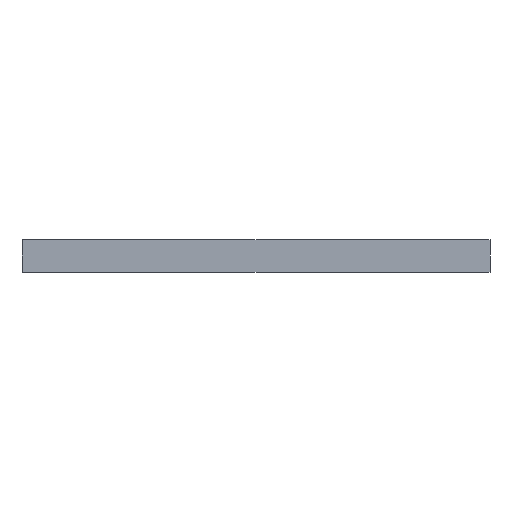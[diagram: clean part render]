
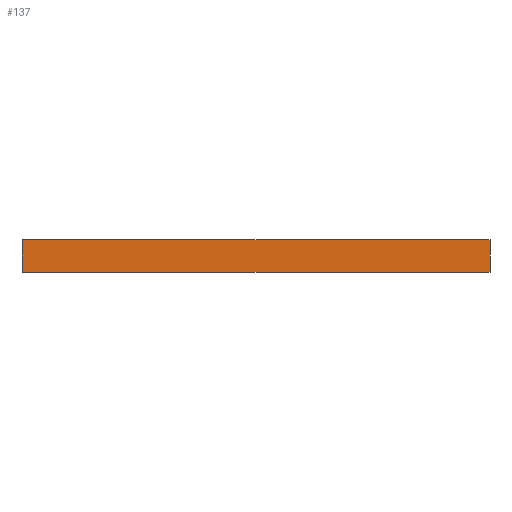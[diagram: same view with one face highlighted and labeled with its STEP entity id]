
A CAD part, front view. The second image highlights one B-rep face of the part: STEP entity #137.
In plain terms, the highlighted planar face has unit normal (0, -1, 0).
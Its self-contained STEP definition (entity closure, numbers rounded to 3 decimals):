
#21 = EDGE_CURVE('',#22,#24,#26,.T.);
#22 = VERTEX_POINT('',#23);
#23 = CARTESIAN_POINT('',(41.2,-17.8,-5.85));
#24 = VERTEX_POINT('',#25);
#25 = CARTESIAN_POINT('',(41.2,-17.8,-4.35));
#26 = SURFACE_CURVE('',#27,(#31,#43),.PCURVE_S1.);
#27 = LINE('',#28,#29);
#28 = CARTESIAN_POINT('',(41.2,-17.8,-5.85));
#29 = VECTOR('',#30,1.);
#30 = DIRECTION('',(0.,0.,1.));
#31 = PCURVE('',#32,#37);
#32 = PLANE('',#33);
#33 = AXIS2_PLACEMENT_3D('',#34,#35,#36);
#34 = CARTESIAN_POINT('',(41.2,-17.8,-5.85));
#35 = DIRECTION('',(1.,0.,0.));
#36 = DIRECTION('',(0.,0.,1.));
#37 = DEFINITIONAL_REPRESENTATION('',(#38),#42);
#38 = LINE('',#39,#40);
#39 = CARTESIAN_POINT('',(0.,0.));
#40 = VECTOR('',#41,1.);
#41 = DIRECTION('',(1.,0.));
#42 = ( GEOMETRIC_REPRESENTATION_CONTEXT(2) 
PARAMETRIC_REPRESENTATION_CONTEXT() REPRESENTATION_CONTEXT('2D SPACE',''
  ) );
#43 = PCURVE('',#44,#49);
#44 = PLANE('',#45);
#45 = AXIS2_PLACEMENT_3D('',#46,#47,#48);
#46 = CARTESIAN_POINT('',(41.2,-17.8,-5.85));
#47 = DIRECTION('',(0.,1.,0.));
#48 = DIRECTION('',(0.,0.,1.));
#49 = DEFINITIONAL_REPRESENTATION('',(#50),#54);
#50 = LINE('',#51,#52);
#51 = CARTESIAN_POINT('',(0.,0.));
#52 = VECTOR('',#53,1.);
#53 = DIRECTION('',(1.,0.));
#54 = ( GEOMETRIC_REPRESENTATION_CONTEXT(2) 
PARAMETRIC_REPRESENTATION_CONTEXT() REPRESENTATION_CONTEXT('2D SPACE',''
  ) );
#72 = PLANE('',#73);
#73 = AXIS2_PLACEMENT_3D('',#74,#75,#76);
#74 = CARTESIAN_POINT('',(41.2,-17.8,-5.85));
#75 = DIRECTION('',(0.,0.,1.));
#76 = DIRECTION('',(1.,0.,0.));
#126 = PLANE('',#127);
#127 = AXIS2_PLACEMENT_3D('',#128,#129,#130);
#128 = CARTESIAN_POINT('',(41.2,-17.8,-4.35));
#129 = DIRECTION('',(0.,0.,1.));
#130 = DIRECTION('',(1.,0.,0.));
#137 = ADVANCED_FACE('',(#138),#44,.F.);
#138 = FACE_BOUND('',#139,.F.);
#139 = EDGE_LOOP('',(#140,#163,#164,#187));
#140 = ORIENTED_EDGE('',*,*,#141,.F.);
#141 = EDGE_CURVE('',#22,#142,#144,.T.);
#142 = VERTEX_POINT('',#143);
#143 = CARTESIAN_POINT('',(62.8,-17.8,-5.85));
#144 = SURFACE_CURVE('',#145,(#149,#156),.PCURVE_S1.);
#145 = LINE('',#146,#147);
#146 = CARTESIAN_POINT('',(41.2,-17.8,-5.85));
#147 = VECTOR('',#148,1.);
#148 = DIRECTION('',(1.,0.,0.));
#149 = PCURVE('',#44,#150);
#150 = DEFINITIONAL_REPRESENTATION('',(#151),#155);
#151 = LINE('',#152,#153);
#152 = CARTESIAN_POINT('',(0.,0.));
#153 = VECTOR('',#154,1.);
#154 = DIRECTION('',(0.,1.));
#155 = ( GEOMETRIC_REPRESENTATION_CONTEXT(2) 
PARAMETRIC_REPRESENTATION_CONTEXT() REPRESENTATION_CONTEXT('2D SPACE',''
  ) );
#156 = PCURVE('',#72,#157);
#157 = DEFINITIONAL_REPRESENTATION('',(#158),#162);
#158 = LINE('',#159,#160);
#159 = CARTESIAN_POINT('',(0.,0.));
#160 = VECTOR('',#161,1.);
#161 = DIRECTION('',(1.,0.));
#162 = ( GEOMETRIC_REPRESENTATION_CONTEXT(2) 
PARAMETRIC_REPRESENTATION_CONTEXT() REPRESENTATION_CONTEXT('2D SPACE',''
  ) );
#163 = ORIENTED_EDGE('',*,*,#21,.T.);
#164 = ORIENTED_EDGE('',*,*,#165,.T.);
#165 = EDGE_CURVE('',#24,#166,#168,.T.);
#166 = VERTEX_POINT('',#167);
#167 = CARTESIAN_POINT('',(62.8,-17.8,-4.35));
#168 = SURFACE_CURVE('',#169,(#173,#180),.PCURVE_S1.);
#169 = LINE('',#170,#171);
#170 = CARTESIAN_POINT('',(41.2,-17.8,-4.35));
#171 = VECTOR('',#172,1.);
#172 = DIRECTION('',(1.,0.,0.));
#173 = PCURVE('',#44,#174);
#174 = DEFINITIONAL_REPRESENTATION('',(#175),#179);
#175 = LINE('',#176,#177);
#176 = CARTESIAN_POINT('',(1.5,0.));
#177 = VECTOR('',#178,1.);
#178 = DIRECTION('',(0.,1.));
#179 = ( GEOMETRIC_REPRESENTATION_CONTEXT(2) 
PARAMETRIC_REPRESENTATION_CONTEXT() REPRESENTATION_CONTEXT('2D SPACE',''
  ) );
#180 = PCURVE('',#126,#181);
#181 = DEFINITIONAL_REPRESENTATION('',(#182),#186);
#182 = LINE('',#183,#184);
#183 = CARTESIAN_POINT('',(0.,0.));
#184 = VECTOR('',#185,1.);
#185 = DIRECTION('',(1.,0.));
#186 = ( GEOMETRIC_REPRESENTATION_CONTEXT(2) 
PARAMETRIC_REPRESENTATION_CONTEXT() REPRESENTATION_CONTEXT('2D SPACE',''
  ) );
#187 = ORIENTED_EDGE('',*,*,#188,.F.);
#188 = EDGE_CURVE('',#142,#166,#189,.T.);
#189 = SURFACE_CURVE('',#190,(#194,#201),.PCURVE_S1.);
#190 = LINE('',#191,#192);
#191 = CARTESIAN_POINT('',(62.8,-17.8,-5.85));
#192 = VECTOR('',#193,1.);
#193 = DIRECTION('',(0.,0.,1.));
#194 = PCURVE('',#44,#195);
#195 = DEFINITIONAL_REPRESENTATION('',(#196),#200);
#196 = LINE('',#197,#198);
#197 = CARTESIAN_POINT('',(0.,21.6));
#198 = VECTOR('',#199,1.);
#199 = DIRECTION('',(1.,0.));
#200 = ( GEOMETRIC_REPRESENTATION_CONTEXT(2) 
PARAMETRIC_REPRESENTATION_CONTEXT() REPRESENTATION_CONTEXT('2D SPACE',''
  ) );
#201 = PCURVE('',#202,#207);
#202 = PLANE('',#203);
#203 = AXIS2_PLACEMENT_3D('',#204,#205,#206);
#204 = CARTESIAN_POINT('',(62.8,-17.8,-5.85));
#205 = DIRECTION('',(1.,0.,0.));
#206 = DIRECTION('',(0.,0.,1.));
#207 = DEFINITIONAL_REPRESENTATION('',(#208),#212);
#208 = LINE('',#209,#210);
#209 = CARTESIAN_POINT('',(0.,0.));
#210 = VECTOR('',#211,1.);
#211 = DIRECTION('',(1.,0.));
#212 = ( GEOMETRIC_REPRESENTATION_CONTEXT(2) 
PARAMETRIC_REPRESENTATION_CONTEXT() REPRESENTATION_CONTEXT('2D SPACE',''
  ) );
